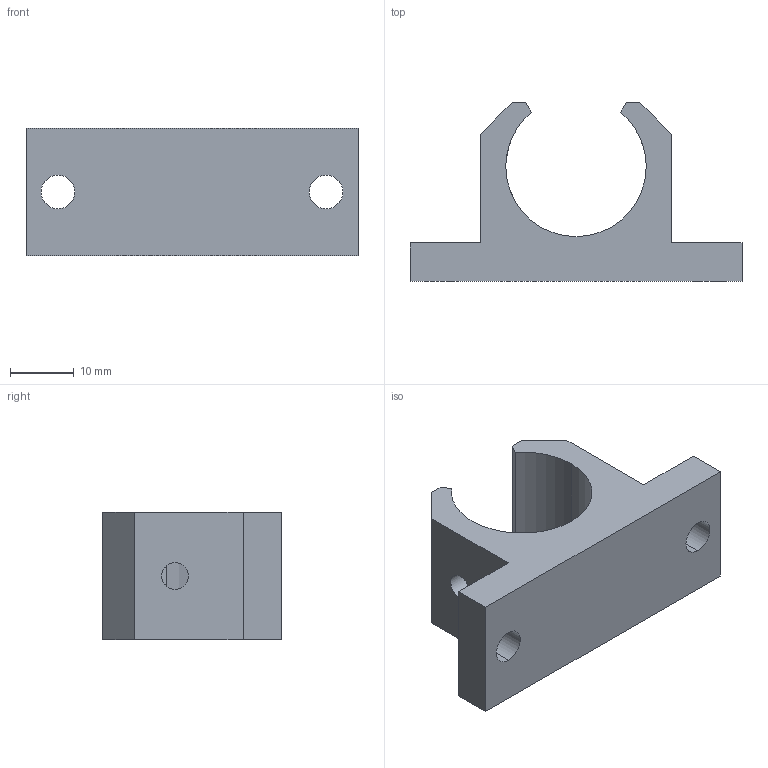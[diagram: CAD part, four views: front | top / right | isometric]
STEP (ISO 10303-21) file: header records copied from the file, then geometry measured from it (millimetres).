
FILE_DESCRIPTION (( 'STEP AP214' ), '1' );
FILE_NAME ('KALGSO-12.step', '2020-03-04T13:15:47', ( '' ), ( '' ), 'SwSTEP 2.0', 'SolidWorks 2019', '' );
FILE_SCHEMA (( 'AUTOMOTIVE_DESIGN' ));
Length unit declared in the file: millimetre
Products named in the file (1): KALGSO-12
Bounding box: 52 x 28 x 20 mm (x, y, z)
Volume: 11046 mm3; surface area: 5192.3 mm2
Topology: 1 solids, 1 shells, 24 faces, 69 edges, 46 vertices
Faces by surface type: plane 15, cylinder 9
Entity records: 907 total; most frequent: CARTESIAN_POINT 198, ORIENTED_EDGE 138, DIRECTION 131, EDGE_CURVE 69, VECTOR 49, LINE 49, VERTEX_POINT 46, AXIS2_PLACEMENT_3D 41
